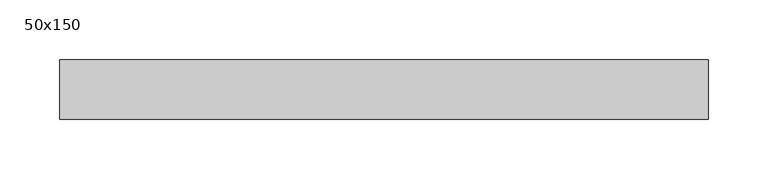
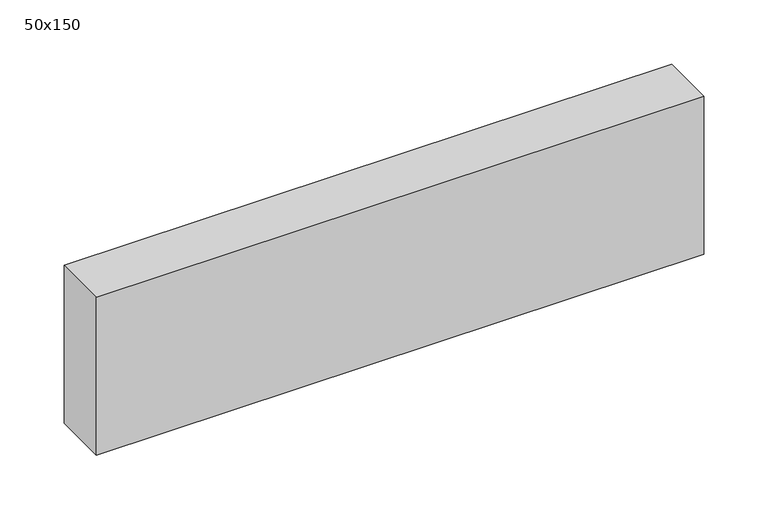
"""IFC4 building model written with IfcOpenShell, lengths in millimetres: beam geometry, Graded Timber : 50x150."""

from ifc_helpers import new_model, si_unit, frame, origin, place, context, project, spatial, polyline, outline, extrude, source, transform, mapped, element, save


def beam_50x150_af16b9af(model_context):
    return source(origin(), model_context, "Body", "SweptSolid", [
        extrude(outline(polyline([(272.5, 25.0), (272.5, -25.0), (-272.5, -25.0), (-272.5, 25.0), (272.5, 25.0)])), frame((0.0, 0.0, -75.0), z_axis=(0.0, 0.0, 1.0), x_axis=(1.0, 0.0, 0.0)), (0.0, 0.0, 1.0), 150.0),
    ])


if __name__ == "__main__":
    model = new_model("IFC4")
    model_context = context("Model", 3, world=origin())
    ifc_project = project(units=[si_unit("LENGTHUNIT", "METRE", prefix="MILLI")], contexts=[model_context])
    site = spatial("IfcSite", under=ifc_project)
    building = spatial("IfcBuilding", under=site)
    placement = place(None, origin())
    beam_50x150_shape = beam_50x150_af16b9af(model_context)
    element("IfcBeam", 1, ObjectType="Graded Timber : 50x150", at=placement, inside=building, context=model_context, shape_type="MappedRepresentation", body=[
        mapped(beam_50x150_shape, transform((0.0, 0.0, 0.0), x_axis=(1.0, 0.0, 0.0), y_axis=(0.0, 1.0, 0.0), z_axis=(0.0, 0.0, 1.0))),
    ])
    save(model, "model.ifc")
